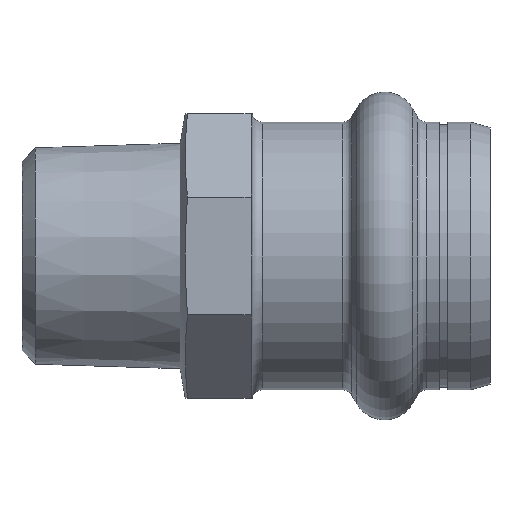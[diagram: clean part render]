
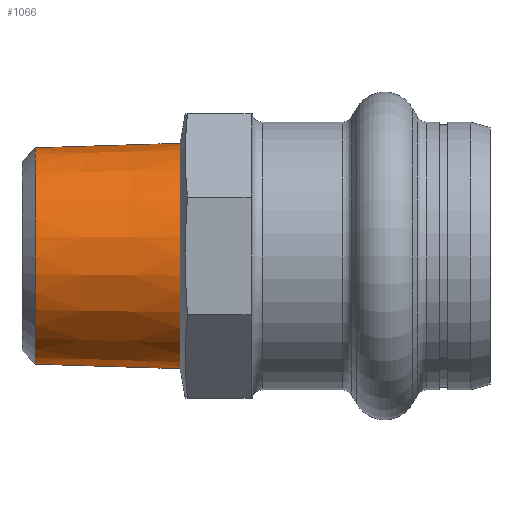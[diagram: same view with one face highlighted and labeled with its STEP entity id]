
A CAD part, left-side view. The second image highlights one B-rep face of the part: STEP entity #1066.
In plain terms, the highlighted conical face has half-angle 1.78 degrees and reference radius 10.689 mm.
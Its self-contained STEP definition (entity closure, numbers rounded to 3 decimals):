
#216 = CONICAL_SURFACE ( 'NONE', #941, 10.689, 0.031 ) ;
#250 = ORIENTED_EDGE ( 'NONE', *, *, #1137, .F. ) ;
#254 = ORIENTED_EDGE ( 'NONE', *, *, #299, .T. ) ;
#256 = ORIENTED_EDGE ( 'NONE', *, *, #400, .F. ) ;
#299 = EDGE_CURVE ( 'NONE', #545, #1236, #1772, .T. ) ;
#311 = CARTESIAN_POINT ( 'NONE',  ( 0., 43.138, -10.262 ) ) ;
#315 = FACE_OUTER_BOUND ( 'NONE', #1989, .T. ) ;
#392 = DIRECTION ( 'NONE',  ( 0., 0., -1. ) ) ;
#400 = EDGE_CURVE ( 'NONE', #1002, #1236, #730, .T. ) ;
#404 = CARTESIAN_POINT ( 'NONE',  ( 0., 29.4, 0. ) ) ;
#415 = DIRECTION ( 'NONE',  ( 0., -1., 0. ) ) ;
#456 = DIRECTION ( 'NONE',  ( 0., -1., -0.031 ) ) ;
#545 = VERTEX_POINT ( 'NONE', #311 ) ;
#576 = LINE ( 'NONE', #776, #1124 ) ;
#670 = CIRCLE ( 'NONE', #817, 10.262 ) ;
#730 = CIRCLE ( 'NONE', #1151, 10.689 ) ;
#776 = CARTESIAN_POINT ( 'NONE',  ( 0., 29.4, 10.689 ) ) ;
#786 = DIRECTION ( 'NONE',  ( 0., 0., -1. ) ) ;
#817 = AXIS2_PLACEMENT_3D ( 'NONE', #1126, #1675, #914 ) ;
#829 = VECTOR ( 'NONE', #456, 1000. ) ;
#914 = DIRECTION ( 'NONE',  ( 0., 0., -1. ) ) ;
#941 = AXIS2_PLACEMENT_3D ( 'NONE', #404, #1216, #392 ) ;
#1002 = VERTEX_POINT ( 'NONE', #2122 ) ;
#1053 = EDGE_CURVE ( 'NONE', #1873, #545, #670, .T. ) ;
#1066 = ADVANCED_FACE ( 'NONE', ( #315 ), #216, .T. ) ;
#1070 = ORIENTED_EDGE ( 'NONE', *, *, #1053, .T. ) ;
#1087 = CARTESIAN_POINT ( 'NONE',  ( 0., 29.4, -10.689 ) ) ;
#1124 = VECTOR ( 'NONE', #1321, 1000. ) ;
#1126 = CARTESIAN_POINT ( 'NONE',  ( 0., 43.138, 0. ) ) ;
#1137 = EDGE_CURVE ( 'NONE', #1873, #1002, #576, .T. ) ;
#1151 = AXIS2_PLACEMENT_3D ( 'NONE', #1787, #415, #786 ) ;
#1216 = DIRECTION ( 'NONE',  ( 0., -1., 0. ) ) ;
#1236 = VERTEX_POINT ( 'NONE', #1256 ) ;
#1256 = CARTESIAN_POINT ( 'NONE',  ( 0., 29.4, -10.689 ) ) ;
#1321 = DIRECTION ( 'NONE',  ( 0., -1., 0.031 ) ) ;
#1397 = CARTESIAN_POINT ( 'NONE',  ( 0., 43.138, 10.262 ) ) ;
#1675 = DIRECTION ( 'NONE',  ( 0., -1., 0. ) ) ;
#1772 = LINE ( 'NONE', #1087, #829 ) ;
#1787 = CARTESIAN_POINT ( 'NONE',  ( 0., 29.4, 0. ) ) ;
#1873 = VERTEX_POINT ( 'NONE', #1397 ) ;
#1989 = EDGE_LOOP ( 'NONE', ( #250, #1070, #254, #256 ) ) ;
#2122 = CARTESIAN_POINT ( 'NONE',  ( 0., 29.4, 10.689 ) ) ;
